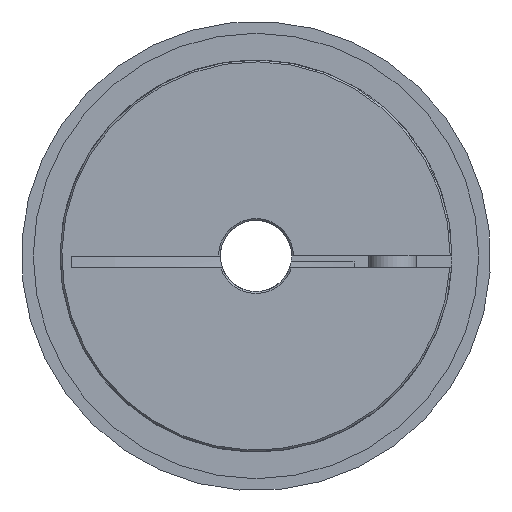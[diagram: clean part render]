
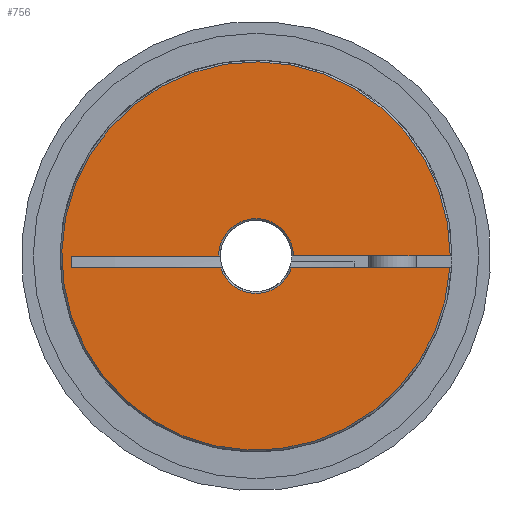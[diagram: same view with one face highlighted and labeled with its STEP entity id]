
A CAD part, left-side view. The second image highlights one B-rep face of the part: STEP entity #756.
In plain terms, the highlighted planar face has unit normal (-1, 0, 0) as drawn and (0, 0, 1) by its records, which use the part's own axes.
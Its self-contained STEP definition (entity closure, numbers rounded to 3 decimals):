
#756 = ADVANCED_FACE( 'NONE', ( #1520 ), #1521, .T. );
#1520 = FACE_OUTER_BOUND( '', #2283, .T. );
#1521 = PLANE( '', #2284 );
#2283 = EDGE_LOOP( '', ( #3569, #3570, #3571, #3572, #3573, #3574, #3575, #3576 ) );
#2284 = AXIS2_PLACEMENT_3D( '', #3577, #3578, #3579 );
#3569 = ORIENTED_EDGE( '', *, *, #3891, .F. );
#3570 = ORIENTED_EDGE( '', *, *, #4292, .T. );
#3571 = ORIENTED_EDGE( '', *, *, #3959, .F. );
#3572 = ORIENTED_EDGE( '', *, *, #4274, .T. );
#3573 = ORIENTED_EDGE( '', *, *, #4130, .T. );
#3574 = ORIENTED_EDGE( '', *, *, #4038, .T. );
#3575 = ORIENTED_EDGE( '', *, *, #4031, .T. );
#3576 = ORIENTED_EDGE( '', *, *, #4243, .F. );
#3577 = CARTESIAN_POINT( '', ( 0., 0., 29. ) );
#3578 = DIRECTION( '', ( 0., 0., 1. ) );
#3579 = DIRECTION( '', ( 1., 0., 0. ) );
#3891 = EDGE_CURVE( 'NONE', #4439, #4441, #4442, .F. );
#3959 = EDGE_CURVE( 'NONE', #4551, #4552, #4553, .F. );
#4031 = EDGE_CURVE( 'NONE', #4669, #4670, #4671, .T. );
#4038 = EDGE_CURVE( 'NONE', #4681, #4669, #4682, .F. );
#4130 = EDGE_CURVE( 'NONE', #4823, #4681, #4824, .T. );
#4243 = EDGE_CURVE( 'NONE', #4441, #4670, #4979, .F. );
#4274 = EDGE_CURVE( 'NONE', #4551, #4823, #5013, .T. );
#4292 = EDGE_CURVE( 'NONE', #4439, #4552, #5036, .F. );
#4439 = VERTEX_POINT( 'NONE', #5369 );
#4441 = VERTEX_POINT( 'NONE', #5372 );
#4442 = LINE( '', #5373, #5374 );
#4551 = VERTEX_POINT( 'NONE', #5501 );
#4552 = VERTEX_POINT( 'NONE', #5502 );
#4553 = LINE( '', #5503, #5504 );
#4669 = VERTEX_POINT( 'NONE', #5808 );
#4670 = VERTEX_POINT( 'NONE', #5809 );
#4671 = LINE( '', #5810, #5811 );
#4681 = VERTEX_POINT( 'NONE', #5825 );
#4682 = CIRCLE( '', #5826, 6.3 );
#4823 = VERTEX_POINT( 'NONE', #6167 );
#4824 = LINE( '', #6168, #6169 );
#4979 = LINE( '', #6369, #6370 );
#5013 = CIRCLE( '', #6412, 32.7 );
#5036 = CIRCLE( '', #6436, 6.3 );
#5369 = CARTESIAN_POINT( '', ( -6.3, 0., 29. ) );
#5372 = CARTESIAN_POINT( '', ( -31.103, 0., 29. ) );
#5373 = CARTESIAN_POINT( '', ( 16.5, 0., 29. ) );
#5374 = VECTOR( '', #6568, 1000. );
#5501 = CARTESIAN_POINT( '', ( 32.7, 0., 29. ) );
#5502 = CARTESIAN_POINT( '', ( 6.3, 0., 29. ) );
#5503 = CARTESIAN_POINT( '', ( 16.5, 0., 29. ) );
#5504 = VECTOR( '', #6695, 1000. );
#5808 = CARTESIAN_POINT( '', ( -5.974, -2., 29. ) );
#5809 = CARTESIAN_POINT( '', ( -31.103, -2., 29. ) );
#5810 = CARTESIAN_POINT( '', ( 0., -2., 29. ) );
#5811 = VECTOR( '', #6791, 1000. );
#5825 = CARTESIAN_POINT( '', ( 5.974, -2., 29. ) );
#5826 = AXIS2_PLACEMENT_3D( '', #6799, #6800, #6801 );
#6167 = CARTESIAN_POINT( '', ( 32.639, -2., 29. ) );
#6168 = CARTESIAN_POINT( '', ( 0., -2., 29. ) );
#6169 = VECTOR( '', #6934, 1000. );
#6369 = CARTESIAN_POINT( '', ( -31.103, -2., 29. ) );
#6370 = VECTOR( '', #7073, 1000. );
#6412 = AXIS2_PLACEMENT_3D( '', #7091, #7092, #7093 );
#6436 = AXIS2_PLACEMENT_3D( '', #7113, #7114, #7115 );
#6568 = DIRECTION( '', ( 1., 0., 0. ) );
#6695 = DIRECTION( '', ( 1., 0., 0. ) );
#6791 = DIRECTION( '', ( -1., 0., 0. ) );
#6799 = CARTESIAN_POINT( '', ( 0., 0., 29. ) );
#6800 = DIRECTION( '', ( 0., 0., 1. ) );
#6801 = DIRECTION( '', ( 1., 0., 0. ) );
#6934 = DIRECTION( '', ( -1., 0., 0. ) );
#7073 = DIRECTION( '', ( 0., 1., 0. ) );
#7091 = CARTESIAN_POINT( '', ( 0., 0., 29. ) );
#7092 = DIRECTION( '', ( 0., 0., 1. ) );
#7093 = DIRECTION( '', ( 1., 0., 0. ) );
#7113 = CARTESIAN_POINT( '', ( 0., 0., 29. ) );
#7114 = DIRECTION( '', ( 0., 0., 1. ) );
#7115 = DIRECTION( '', ( 1., 0., 0. ) );
